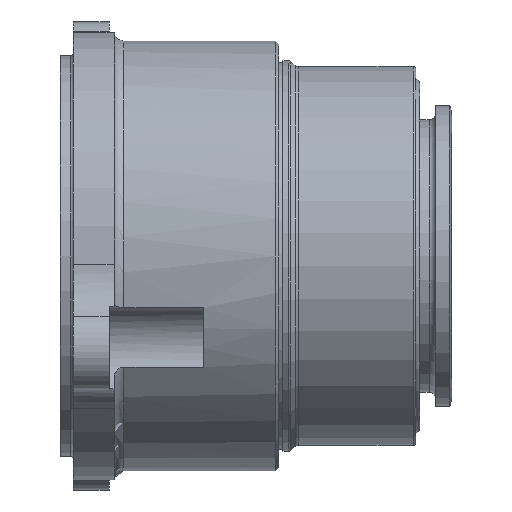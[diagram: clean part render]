
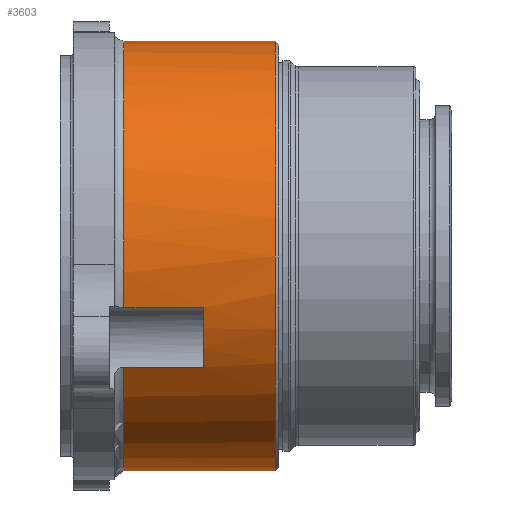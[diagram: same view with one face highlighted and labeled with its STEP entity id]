
A CAD part, left-side view. The second image highlights one B-rep face of the part: STEP entity #3603.
In plain terms, the highlighted cylindrical face has radius 33.528 mm (diameter 67.056 mm), a full revolution.
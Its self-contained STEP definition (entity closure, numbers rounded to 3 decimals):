
#74=LINE('',#5189,#154);
#75=LINE('',#5190,#155);
#87=LINE('',#5222,#167);
#88=LINE('',#5223,#168);
#96=LINE('',#5330,#176);
#97=LINE('',#5331,#177);
#154=VECTOR('',#4315,1000.);
#155=VECTOR('',#4316,1000.);
#167=VECTOR('',#4348,1000.);
#168=VECTOR('',#4349,1000.);
#176=VECTOR('',#4409,1000.);
#177=VECTOR('',#4410,1000.);
#321=CIRCLE('',#3731,33.528);
#335=CIRCLE('',#3751,33.528);
#352=CIRCLE('',#3782,33.528);
#356=CIRCLE('',#3789,33.528);
#376=CIRCLE('',#3818,33.528);
#378=CIRCLE('',#3821,33.528);
#402=CIRCLE('',#3883,33.528);
#805=ORIENTED_EDGE('',*,*,#1192,.F.);
#806=ORIENTED_EDGE('',*,*,#1134,.T.);
#807=ORIENTED_EDGE('',*,*,#1176,.F.);
#808=ORIENTED_EDGE('',*,*,#1170,.T.);
#809=ORIENTED_EDGE('',*,*,#1175,.F.);
#810=ORIENTED_EDGE('',*,*,#1146,.T.);
#811=ORIENTED_EDGE('',*,*,#1221,.F.);
#812=ORIENTED_EDGE('',*,*,#1168,.T.);
#813=ORIENTED_EDGE('',*,*,#1220,.F.);
#814=ORIENTED_EDGE('',*,*,#1239,.T.);
#815=ORIENTED_EDGE('',*,*,#1193,.F.);
#816=ORIENTED_EDGE('',*,*,#1107,.T.);
#817=ORIENTED_EDGE('',*,*,#1084,.T.);
#1084=EDGE_CURVE('',#1373,#1373,#321,.T.);
#1107=EDGE_CURVE('',#1392,#1393,#335,.T.);
#1134=EDGE_CURVE('',#1420,#1419,#352,.T.);
#1146=EDGE_CURVE('',#1431,#1430,#356,.T.);
#1168=EDGE_CURVE('',#1446,#1447,#376,.T.);
#1170=EDGE_CURVE('',#1448,#1449,#378,.T.);
#1175=EDGE_CURVE('',#1431,#1449,#74,.T.);
#1176=EDGE_CURVE('',#1448,#1419,#75,.T.);
#1192=EDGE_CURVE('',#1420,#1393,#87,.T.);
#1193=EDGE_CURVE('',#1392,#1462,#88,.T.);
#1220=EDGE_CURVE('',#1479,#1447,#96,.T.);
#1221=EDGE_CURVE('',#1446,#1430,#97,.T.);
#1239=EDGE_CURVE('',#1479,#1462,#402,.T.);
#1373=VERTEX_POINT('',#4944);
#1392=VERTEX_POINT('',#4997);
#1393=VERTEX_POINT('',#4998);
#1419=VERTEX_POINT('',#5078);
#1420=VERTEX_POINT('',#5080);
#1430=VERTEX_POINT('',#5122);
#1431=VERTEX_POINT('',#5124);
#1446=VERTEX_POINT('',#5173);
#1447=VERTEX_POINT('',#5174);
#1448=VERTEX_POINT('',#5178);
#1449=VERTEX_POINT('',#5179);
#1462=VERTEX_POINT('',#5224);
#1479=VERTEX_POINT('',#5329);
#1730=EDGE_LOOP('',(#805,#806,#807,#808,#809,#810,#811,#812,#813,#814,#815,
#816));
#1731=EDGE_LOOP('',(#817));
#2032=FACE_BOUND('',#1730,.T.);
#2033=FACE_BOUND('',#1731,.T.);
#2256=CYLINDRICAL_SURFACE('',#3884,33.528);
#3603=ADVANCED_FACE('',(#2032,#2033),#2256,.T.);
#3731=AXIS2_PLACEMENT_3D('',#4943,#4106,#4107);
#3751=AXIS2_PLACEMENT_3D('',#4999,#4153,#4154);
#3782=AXIS2_PLACEMENT_3D('',#5079,#4220,#4221);
#3789=AXIS2_PLACEMENT_3D('',#5123,#4236,#4237);
#3818=AXIS2_PLACEMENT_3D('',#5175,#4295,#4296);
#3821=AXIS2_PLACEMENT_3D('',#5180,#4301,#4302);
#3883=AXIS2_PLACEMENT_3D('',#5544,#4454,#4455);
#3884=AXIS2_PLACEMENT_3D('',#5545,#4456,#4457);
#4106=DIRECTION('',(0.,1.,0.));
#4107=DIRECTION('',(0.,0.,-1.));
#4153=DIRECTION('',(0.,-1.,0.));
#4154=DIRECTION('',(0.,0.,1.));
#4220=DIRECTION('',(0.,-1.,0.));
#4221=DIRECTION('',(0.,0.,-1.));
#4236=DIRECTION('',(0.,-1.,0.));
#4237=DIRECTION('',(0.,0.,-1.));
#4295=DIRECTION('',(0.,-1.,0.));
#4296=DIRECTION('',(0.,0.,1.));
#4301=DIRECTION('',(0.,-1.,0.));
#4302=DIRECTION('',(0.,0.,1.));
#4315=DIRECTION('',(0.,-1.,0.));
#4316=DIRECTION('',(0.,1.,0.));
#4348=DIRECTION('',(0.,-1.,0.));
#4349=DIRECTION('',(0.,1.,0.));
#4409=DIRECTION('',(0.,-1.,0.));
#4410=DIRECTION('',(0.,1.,0.));
#4454=DIRECTION('',(0.,-1.,0.));
#4455=DIRECTION('',(0.,0.,-1.));
#4456=DIRECTION('',(0.,1.,0.));
#4457=DIRECTION('',(0.,0.,-1.));
#4943=CARTESIAN_POINT('',(0.,3.048,0.));
#4944=CARTESIAN_POINT('',(0.,3.048,-33.528));
#4997=CARTESIAN_POINT('',(24.167,14.224,23.239));
#4998=CARTESIAN_POINT('',(16.193,14.224,29.359));
#4999=CARTESIAN_POINT('',(0.,14.224,0.));
#5078=CARTESIAN_POINT('',(-32.549,26.67,-8.042));
#5079=CARTESIAN_POINT('',(0.,26.67,0.));
#5080=CARTESIAN_POINT('',(16.193,26.67,29.359));
#5122=CARTESIAN_POINT('',(16.193,26.67,-29.359));
#5123=CARTESIAN_POINT('',(0.,26.67,0.));
#5124=CARTESIAN_POINT('',(-28.703,26.67,-17.329));
#5173=CARTESIAN_POINT('',(16.193,14.224,-29.359));
#5174=CARTESIAN_POINT('',(24.167,14.224,-23.239));
#5175=CARTESIAN_POINT('',(0.,14.224,0.));
#5178=CARTESIAN_POINT('',(-32.549,14.224,-8.042));
#5179=CARTESIAN_POINT('',(-28.703,14.224,-17.329));
#5180=CARTESIAN_POINT('',(0.,14.224,0.));
#5189=CARTESIAN_POINT('',(-28.703,21.209,-17.329));
#5190=CARTESIAN_POINT('',(-32.549,21.209,-8.042));
#5222=CARTESIAN_POINT('',(16.193,21.209,29.359));
#5223=CARTESIAN_POINT('',(24.167,21.209,23.239));
#5224=CARTESIAN_POINT('',(24.167,14.529,23.239));
#5329=CARTESIAN_POINT('',(24.167,14.529,-23.239));
#5330=CARTESIAN_POINT('',(24.167,21.209,-23.239));
#5331=CARTESIAN_POINT('',(16.193,21.209,-29.359));
#5544=CARTESIAN_POINT('',(0.,14.529,0.));
#5545=CARTESIAN_POINT('',(0.,-60.008,0.));
